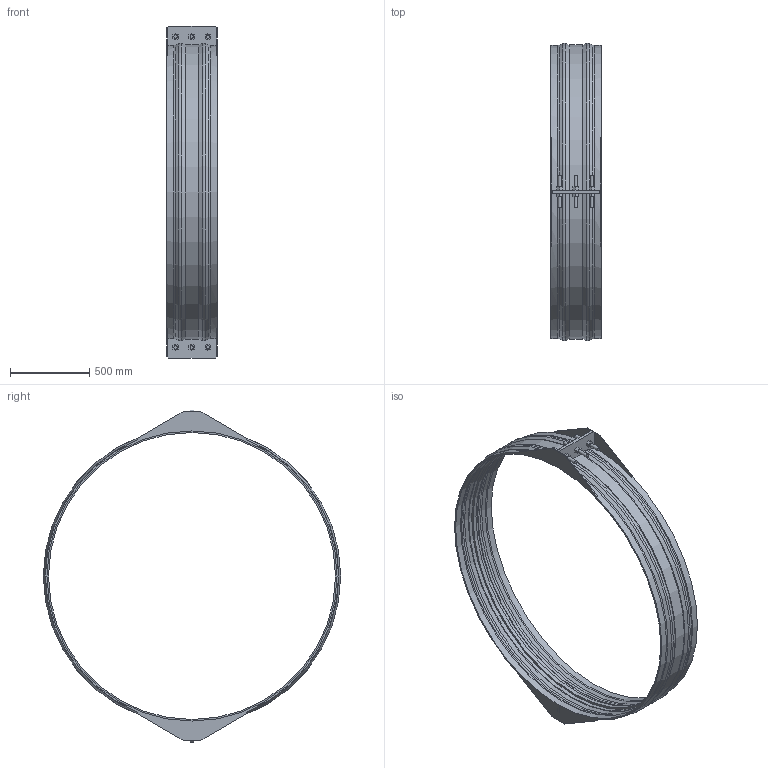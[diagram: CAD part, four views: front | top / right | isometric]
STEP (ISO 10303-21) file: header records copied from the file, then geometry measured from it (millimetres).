
FILE_DESCRIPTION(/* description */ ('VIC RESTRAINED COUPLING STYLE 233 (FLEX) (BRD)','CAx-IF Rec.Pracs.---Representation and Presentation of Product Manufacturing Information (PMI)---4.0---2014-10-13'),/* implementation_level */ '2;1');
FILE_NAME(/* name */ 'C:\Users\Vjadhav\Desktop\CAD for Inventor\Test for STEP\Vivek\Adsk_Inventor_Bolted Sleeve_iParts\STEP\Victaulic_VBSP_Coupling Flexible Restrained_Style 233 (BRD)\Victaulic_VBSP_Coupling Flexible Restrained_Style 233 (BRD)_100psi_72 (1800).stp',/* time_stamp */ '2020-09-24T12:30:52+05:00',/* author */ ('Vjadhav'),/* organization */ ('Victaulic'),/* preprocessor_version */ 'ST-DEVELOPER v17.2',/* originating_system */ 'Autodesk Inventor 2019',/* authorisation */ '');
FILE_SCHEMA (('AP242_MANAGED_MODEL_BASED_3D_ENGINEERING_MIM_LF { 1 0 10303 442 1 1 4 }'));
Length unit declared in the file: inch
Products named in the file (1): Style_233_Type_2_100psi-72.0
Bounding box: 317.5 x 1874.54 x 2092.96 mm (x, y, z)
Volume: 22744885.3 mm3; surface area: 4604282.5 mm2
Topology: 1 solids, 1 shells, 211 faces, 557 edges, 374 vertices
Faces by surface type: plane 142, cylinder 39, torus 18, cone 12
Full cylindrical faces by diameter (mm): 22.225 x12, 1809.75 x1, 1828.8 x2, 1835.15 x2
Entity records: 7048 total; most frequent: CARTESIAN_POINT 1352, DIRECTION 1127, ORIENTED_EDGE 1114, EDGE_CURVE 557, LINE 389, VECTOR 389, VERTEX_POINT 374, AXIS2_PLACEMENT_3D 369
